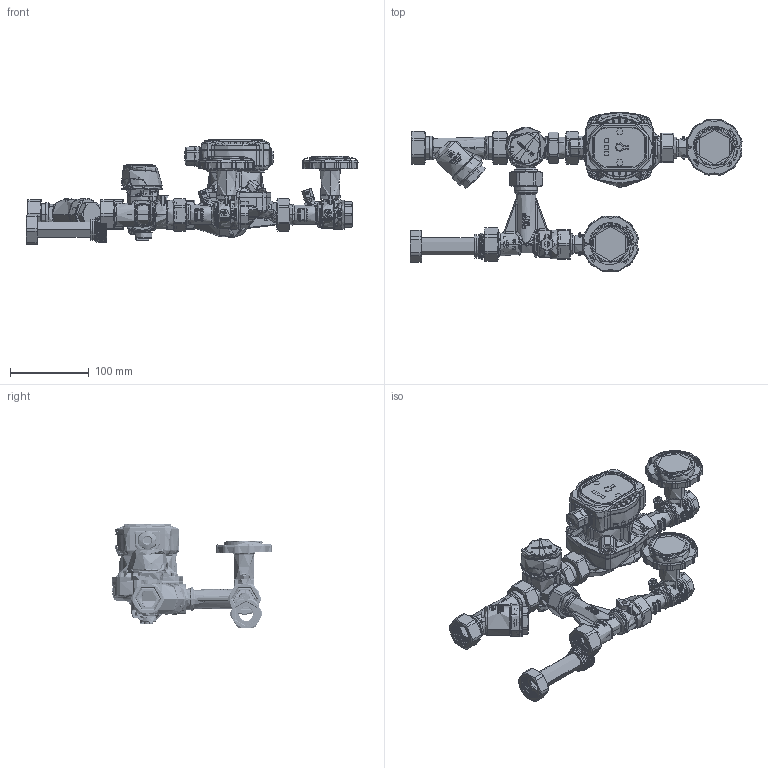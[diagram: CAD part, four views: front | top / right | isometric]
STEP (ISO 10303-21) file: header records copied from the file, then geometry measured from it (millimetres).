
FILE_DESCRIPTION (( 'STEP AP203' ), '1' );
FILE_NAME ('BPS_grupa_pompowa_9099620_0_3D_AFRISO.STEP', '2024-11-22T12:36:59', ( '' ), ( '' ), 'SwSTEP 2.0', 'SolidWorks 2025', '' );
FILE_SCHEMA (( 'CONFIG_CONTROL_DESIGN' ));
Length unit declared in the file: millimetre
Products named in the file (48): Inserto-Maniglia-1870-52005071; Tubo-22; Corpo-1963-DN20-Lavorato-30105655; 70405017-1963-1DFx34F-GIALLO-MAN-NERA_ASSIEME; 90405017-1963-1DFx34F-GIALLO-MAN-NERA_ASSIEME; Guarnizione-840-34-ptfe-52705005; 709 000 0021_W_X_FCplast-Linsenkopfschraube 3,5x14 T10_0; Dado-553-S-1-Lavorato-31505553_1; Assieme-Valvola-Tee-Check_ASSIEME_1; Dado-1460- 1-Lavorato-31505460_2; Anello-Elastico-1460-Ř28x2-53105460_2; BPS_grupa_pompowa_9099620_0_3D_AFRISO; Asta-840-12-Unificata-30505300; ARV_nowa generacja (pokrętło); Assieme-Filtro1; Grano-M4x6-52110003; Anello-Elastico-553-S-1-53105253; O-ring-4125-PE32-52905023_2; Filtro-1410-114-53505410_2; M1605404-3404-1x1-Prolunga-Montata_1; Sockel Mischerbet. _AFRISO-PL__2017-05-31; Raccordo-840-34-Lavorato-31605312_Sabbiata_1; 10405027-1963-1DFx34F-Maniglia-Termometro-Nera_TERMOMETRO_1; Guarnizione-840-34-ptfe-52705005_1; 05 01 001117_Verstellhebel DN20_DN25; APH-100-15-7-130_LFP; maniglia-1870-1871_Nera; Anello-Elastico-553-S-1-53105253_Per assemblaggio_1; Sfera-300-34-Lavorata-33208005_1; Dado-gruppo-imar-ch37-d23-Lavorato-51505423; 05 01 001120_Aufnahmesockel DN20_DN25; Corpo-Valvola-DN20-Lavorato_1; Corpo-Filtro-Lavorato_2; Sfera-300-34-Lavorata-33208005; Dado-553-S-1-Lavorato-31505553; Dado-Fissaggio-Maniglia-1870-A-31505091; pokretlo na termometr; Tubo-22-1DFx1M; 3404-Prolunga-1Fx1DF-Lavorata-L1605404_1; Pokrętło ARV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
Assembly tree (58 placements, depth 6):
  BPS_grupa_pompowa_9099620_0_3D_AFRISO
    Assieme-Filtro1
      Corpo-Filtro-Lavorato_2
      Anello-Elastico-1460-Ř28x2-53105460_2  x2
      Dado-1460- 1-Lavorato-31505460_2  x2
      3438-Tappo Filtro Lavorato_2
      Filtro-1410-114-53505410_2
      O-ring-4125-PE32-52905023_2
    M1605404-3404-1x1-Prolunga-Montata_1
      3404-Prolunga-1Fx1DF-Lavorata-L1605404_1
      Anello-Elastico-553-S-1-53105253_Per assemblaggio_1
      Dado-553-S-1-Lavorato-31505553_1
    Assieme-Valvola-Tee-Check_ASSIEME_1
      Corpo-Valvola-DN20-Lavorato_1
      Sfera-300-34-Lavorata-33208005_1
      Guarnizione-840-34-ptfe-52705005_1  x2
      Raccordo-840-34-Lavorato-31605312_Sabbiata_1
      Dado-1460- 1-Lavorato-31505460_2  x2
      Anello-Elastico-1460-Ř28x2-53105460_2  x2
      Check-dn25-HT-con-alette_1
    Pokrętło ARV
      ARV_nowa generacja (pokrętło)
      Sockel Mischerbet. _AFRISO-PL__2017-05-31
    Tubo-22-1DFx1M
      Tubo-22
      3384-DN20-Raccordo-1xTubo-Ř22-31705004
      Dado-gruppo-imar-ch37-d23-Lavorato-51505423
    10405027-1963-1DFx34F-Maniglia-Termometro-Nera_TERMOMETRO_1  x2
      70405017-1963-1DFx34F-GIALLO-MAN-NERA_ASSIEME
        90405017-1963-1DFx34F-GIALLO-MAN-NERA_ASSIEME
          20405011-1963-34-GIALLO_ASSIEME
            Corpo-1963-DN20-Lavorato-30105655
            Sfera-300-34-Lavorata-33208005
            Guarnizione-840-34-ptfe-52705005  x2
            Asta-840-12-Unificata-30505300
            O-ring-2018-EPDM 70 N01C  x2
            Raccordo-840-34-Lavorato-31605312_Sabbiata
          maniglia-1870-1871_Nera
          Dado-Fissaggio-Maniglia-1870-A-31505091
          Inserto-Maniglia-1870-52005071
          Grano-M4x6-52110003
          1961-S-Portasonda-_X2_0158_X0_6-Lavorato-30805032
        Anello-Elastico-553-S-1-53105253
        Dado-553-S-1-Lavorato-31505553
    pokretlo na termometr  x2
    APH-100-15-7-130_LFP
    05 01 001117_Verstellhebel DN20_DN25
    05 01 001120_Aufnahmesockel DN20_DN25
    05 01 001124_Geh_X_E4use 3-W ARV-Vario DN20 AG 
    709 000 0021_W_X_FCplast-Linsenkopfschraube 3,5x14 T10_0
Bounding box: 420.88 x 202.37 x 132.75 mm (x, y, z)
Topology: 74 solids, 84 shells, 11956 faces, 29444 edges, 17901 vertices
Faces by surface type: plane 3458, bspline 2425, cylinder 2416, cone 2255, torus 1054, sphere 348
Entity records: 529051 total; most frequent: CARTESIAN_POINT 329036, ORIENTED_EDGE 44662, DIRECTION 34939, EDGE_CURVE 22331, VERTEX_POINT 13602, AXIS2_PLACEMENT_3D 13519, EDGE_LOOP 9629, FACE_OUTER_BOUND 9172
